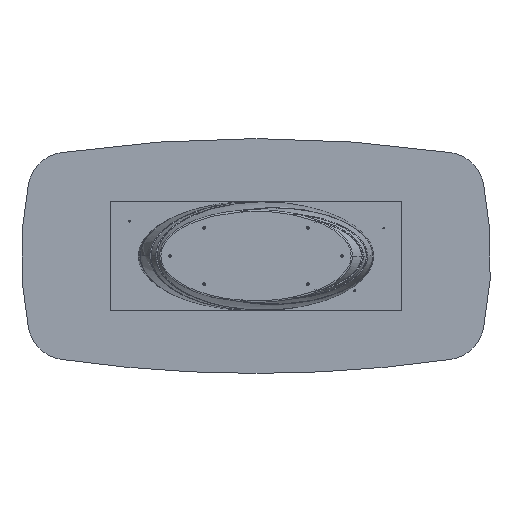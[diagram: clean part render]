
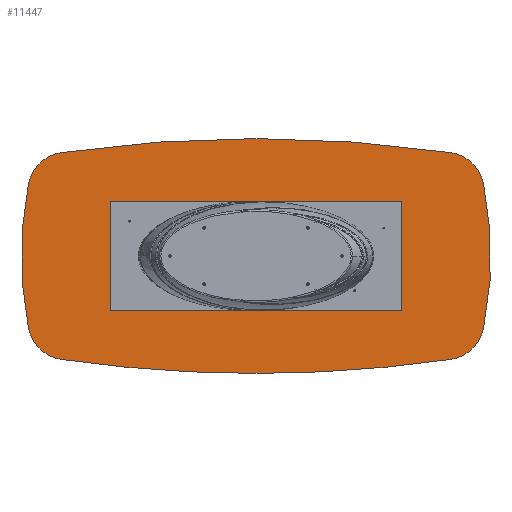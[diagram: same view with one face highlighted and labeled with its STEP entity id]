
A CAD part, front view. The second image highlights one B-rep face of the part: STEP entity #11447.
In plain terms, the highlighted planar face has unit normal (0, -1, 0).
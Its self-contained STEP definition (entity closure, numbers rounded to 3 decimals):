
#294 = CIRCLE ( 'NONE', #28116, 6950. ) ;
#1130 = EDGE_CURVE ( 'NONE', #13098, #7835, #23741, .T. ) ;
#1461 = PLANE ( 'NONE',  #4484 ) ;
#1764 = DIRECTION ( 'NONE',  ( 0., 0., 1. ) ) ;
#2003 = AXIS2_PLACEMENT_3D ( 'NONE', #28437, #10853, #37154 ) ;
#2110 = CIRCLE ( 'NONE', #11743, 200. ) ;
#2182 = CARTESIAN_POINT ( 'NONE',  ( 0., 50., 6350. ) ) ;
#3234 = CIRCLE ( 'NONE', #34067, 200. ) ;
#3401 = VERTEX_POINT ( 'NONE', #12155 ) ;
#3920 = VERTEX_POINT ( 'NONE', #4065 ) ;
#4065 = CARTESIAN_POINT ( 'NONE',  ( -1162.39, 50., 370.629 ) ) ;
#4093 = CARTESIAN_POINT ( 'NONE',  ( 1162.39, 50., 370.629 ) ) ;
#4484 = AXIS2_PLACEMENT_3D ( 'NONE', #33642, #7318, #18494 ) ;
#5179 = DIRECTION ( 'NONE',  ( 0., 1., 0. ) ) ;
#5269 = CARTESIAN_POINT ( 'NONE',  ( -1162.39, 50., -370.629 ) ) ;
#5324 = DIRECTION ( 'NONE',  ( 0., 1., 0. ) ) ;
#6285 = AXIS2_PLACEMENT_3D ( 'NONE', #26157, #8001, #31101 ) ;
#6311 = CARTESIAN_POINT ( 'NONE',  ( 0., 50., -6350. ) ) ;
#6797 = ORIENTED_EDGE ( 'NONE', *, *, #34896, .F. ) ;
#7318 = DIRECTION ( 'NONE',  ( 0., -1., 0. ) ) ;
#7739 = ORIENTED_EDGE ( 'NONE', *, *, #14000, .F. ) ;
#7745 = CARTESIAN_POINT ( 'NONE',  ( 0., 50., -600. ) ) ;
#7835 = VERTEX_POINT ( 'NONE', #5269 ) ;
#8001 = DIRECTION ( 'NONE',  ( 0., 1., 0. ) ) ;
#8727 = AXIS2_PLACEMENT_3D ( 'NONE', #21641, #33583, #21835 ) ;
#9374 = CIRCLE ( 'NONE', #12392, 1845. ) ;
#10252 = CARTESIAN_POINT ( 'NONE',  ( 995.103, 50., 528.391 ) ) ;
#10585 = CARTESIAN_POINT ( 'NONE',  ( -645., 50., 0. ) ) ;
#10635 = EDGE_CURVE ( 'NONE', #3920, #33954, #3234, .T. ) ;
#10853 = DIRECTION ( 'NONE',  ( 0., 1., 0. ) ) ;
#11163 = AXIS2_PLACEMENT_3D ( 'NONE', #19573, #5179, #13886 ) ;
#11447 = ADVANCED_FACE ( 'NONE', ( #25106 ), #1461, .T. ) ;
#11743 = AXIS2_PLACEMENT_3D ( 'NONE', #13845, #5324, #25214 ) ;
#11786 = ORIENTED_EDGE ( 'NONE', *, *, #10635, .F. ) ;
#12155 = CARTESIAN_POINT ( 'NONE',  ( 995.103, 50., -528.391 ) ) ;
#12392 = AXIS2_PLACEMENT_3D ( 'NONE', #10585, #22299, #22476 ) ;
#12647 = CARTESIAN_POINT ( 'NONE',  ( -995.103, 50., -528.391 ) ) ;
#12934 = CIRCLE ( 'NONE', #6285, 200. ) ;
#13098 = VERTEX_POINT ( 'NONE', #12647 ) ;
#13513 = ORIENTED_EDGE ( 'NONE', *, *, #14785, .F. ) ;
#13845 = CARTESIAN_POINT ( 'NONE',  ( 966.467, 50., 330.452 ) ) ;
#13886 = DIRECTION ( 'NONE',  ( 0., 0., -1. ) ) ;
#14000 = EDGE_CURVE ( 'NONE', #7835, #3920, #24420, .T. ) ;
#14785 = EDGE_CURVE ( 'NONE', #29804, #3401, #12934, .T. ) ;
#16202 = CARTESIAN_POINT ( 'NONE',  ( -995.103, 50., 528.391 ) ) ;
#16849 = EDGE_LOOP ( 'NONE', ( #13513, #37048, #17657, #6797, #11786, #7739, #19242, #23629, #33406 ) ) ;
#17657 = ORIENTED_EDGE ( 'NONE', *, *, #29470, .F. ) ;
#17704 = VERTEX_POINT ( 'NONE', #7745 ) ;
#18494 = DIRECTION ( 'NONE',  ( 0., 0., -1. ) ) ;
#19242 = ORIENTED_EDGE ( 'NONE', *, *, #1130, .F. ) ;
#19573 = CARTESIAN_POINT ( 'NONE',  ( 0., 50., 6350. ) ) ;
#19632 = CIRCLE ( 'NONE', #34154, 6950. ) ;
#21641 = CARTESIAN_POINT ( 'NONE',  ( 645., 50., 0. ) ) ;
#21835 = DIRECTION ( 'NONE',  ( 0., 0., 1. ) ) ;
#22299 = DIRECTION ( 'NONE',  ( 0., 1., 0. ) ) ;
#22476 = DIRECTION ( 'NONE',  ( 0., 0., -1. ) ) ;
#23629 = ORIENTED_EDGE ( 'NONE', *, *, #31468, .F. ) ;
#23741 = CIRCLE ( 'NONE', #2003, 200. ) ;
#24109 = CARTESIAN_POINT ( 'NONE',  ( 1162.39, 50., -370.629 ) ) ;
#24268 = DIRECTION ( 'NONE',  ( 0., 1., 0. ) ) ;
#24307 = VERTEX_POINT ( 'NONE', #4093 ) ;
#24420 = CIRCLE ( 'NONE', #8727, 1845. ) ;
#25080 = DIRECTION ( 'NONE',  ( 0., 1., 0. ) ) ;
#25106 = FACE_OUTER_BOUND ( 'NONE', #16849, .T. ) ;
#25214 = DIRECTION ( 'NONE',  ( 0., 0., -1. ) ) ;
#26009 = DIRECTION ( 'NONE',  ( 0., 1., 0. ) ) ;
#26157 = CARTESIAN_POINT ( 'NONE',  ( 966.467, 50., -330.452 ) ) ;
#26252 = CIRCLE ( 'NONE', #11163, 6950. ) ;
#27502 = CARTESIAN_POINT ( 'NONE',  ( -966.467, 50., 330.452 ) ) ;
#28116 = AXIS2_PLACEMENT_3D ( 'NONE', #6311, #26009, #35285 ) ;
#28437 = CARTESIAN_POINT ( 'NONE',  ( -966.467, 50., -330.452 ) ) ;
#29470 = EDGE_CURVE ( 'NONE', #35022, #24307, #2110, .T. ) ;
#29804 = VERTEX_POINT ( 'NONE', #24109 ) ;
#31101 = DIRECTION ( 'NONE',  ( 0., 0., -1. ) ) ;
#31468 = EDGE_CURVE ( 'NONE', #17704, #13098, #26252, .T. ) ;
#33406 = ORIENTED_EDGE ( 'NONE', *, *, #34254, .F. ) ;
#33583 = DIRECTION ( 'NONE',  ( 0., 1., 0. ) ) ;
#33642 = CARTESIAN_POINT ( 'NONE',  ( 160.734, 50., -165.226 ) ) ;
#33954 = VERTEX_POINT ( 'NONE', #16202 ) ;
#34067 = AXIS2_PLACEMENT_3D ( 'NONE', #27502, #24268, #1764 ) ;
#34154 = AXIS2_PLACEMENT_3D ( 'NONE', #2182, #25080, #36638 ) ;
#34254 = EDGE_CURVE ( 'NONE', #3401, #17704, #19632, .T. ) ;
#34896 = EDGE_CURVE ( 'NONE', #33954, #35022, #294, .T. ) ;
#35022 = VERTEX_POINT ( 'NONE', #10252 ) ;
#35285 = DIRECTION ( 'NONE',  ( 0., 0., 1. ) ) ;
#35727 = EDGE_CURVE ( 'NONE', #24307, #29804, #9374, .T. ) ;
#36638 = DIRECTION ( 'NONE',  ( 0., 0., -1. ) ) ;
#37048 = ORIENTED_EDGE ( 'NONE', *, *, #35727, .F. ) ;
#37154 = DIRECTION ( 'NONE',  ( 0., 0., 1. ) ) ;
